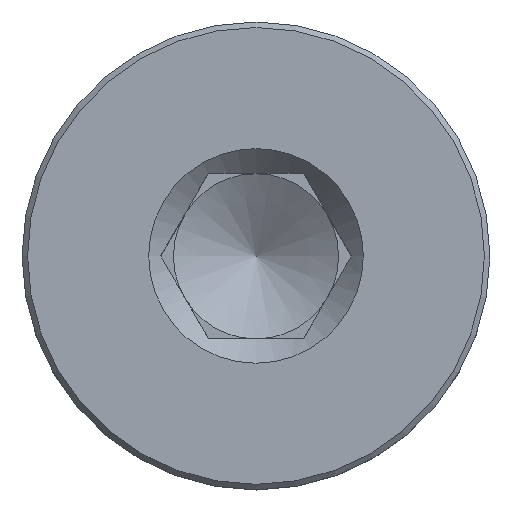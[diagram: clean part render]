
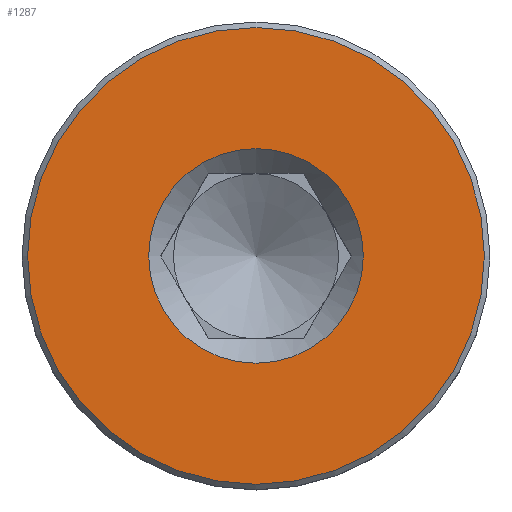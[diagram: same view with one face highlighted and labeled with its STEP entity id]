
A CAD part, top view. The second image highlights one B-rep face of the part: STEP entity #1287.
In plain terms, the highlighted planar face has unit normal (0, 0, 1) as drawn and (0, 1, 0) by its records, which use the part's own axes.
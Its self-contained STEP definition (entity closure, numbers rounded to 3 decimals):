
#612=PLANE('',#1229);
#646=ORIENTED_EDGE('',*,*,#800,.F.);
#647=ORIENTED_EDGE('',*,*,#801,.F.);
#739=CIRCLE('',#1228,8.3);
#740=CIRCLE('',#1230,3.9);
#760=VERTEX_POINT('',#1115);
#761=VERTEX_POINT('',#1118);
#800=EDGE_CURVE('',#760,#760,#739,.T.);
#801=EDGE_CURVE('',#761,#761,#740,.T.);
#860=EDGE_LOOP('',(#646));
#861=EDGE_LOOP('',(#647));
#904=FACE_BOUND('',#860,.T.);
#905=FACE_BOUND('',#861,.T.);
#974=DIRECTION('',(0.,-1.,0.));
#975=DIRECTION('',(0.,0.,8.3));
#976=DIRECTION('',(0.,1.,0.));
#977=DIRECTION('',(1.,0.,0.));
#978=DIRECTION('',(0.,1.,0.));
#979=DIRECTION('',(0.,0.,3.9));
#1115=CARTESIAN_POINT('',(11.137,21.724,8.3));
#1116=CARTESIAN_POINT('',(11.137,21.724,0.));
#1117=CARTESIAN_POINT('',(19.437,21.724,0.));
#1118=CARTESIAN_POINT('',(11.137,21.724,3.9));
#1119=CARTESIAN_POINT('',(11.137,21.724,0.));
#1228=AXIS2_PLACEMENT_3D('',#1116,#974,#975);
#1229=AXIS2_PLACEMENT_3D('',#1117,#976,#977);
#1230=AXIS2_PLACEMENT_3D('',#1119,#978,#979);
#1287=ADVANCED_FACE('',(#904,#905),#612,.T.);
